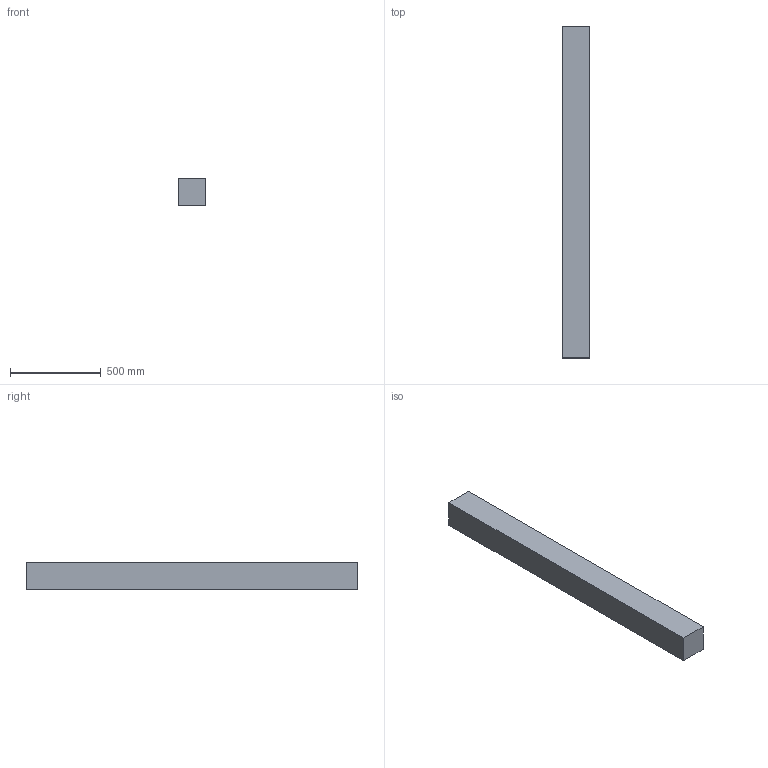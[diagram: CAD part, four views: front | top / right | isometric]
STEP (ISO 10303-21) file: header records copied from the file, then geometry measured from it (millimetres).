
FILE_DESCRIPTION(/* description */ (''),/* implementation_level */ '2;1');
FILE_NAME(/* name */ '6x6x72',/* time_stamp */ '2024-09-20T11:47:12-05:00',/* author */ (''),/* organization */ (''),/* preprocessor_version */ 'ST-DEVELOPER v19.2',/* originating_system */ 'Rhino 8.5',/* authorisation */ '');
FILE_SCHEMA (('CONFIG_CONTROL_DESIGN'));
Length unit declared in the file: inch
Products named in the file (1): Document
Bounding box: 152.4 x 1828.8 x 152.4 mm (x, y, z)
Volume: 42475269.9 mm3; surface area: 1161288 mm2
Topology: 1 solids, 1 shells, 6 faces, 12 edges, 8 vertices
Faces by surface type: plane 6
Entity records: 226 total; most frequent: CARTESIAN_POINT 40, ORIENTED_EDGE 24, EDGE_CURVE 12, B_SPLINE_CURVE_WITH_KNOTS 12, DIRECTION 10, VERTEX_POINT 8, AXIS2_PLACEMENT_3D 8, ORGANIZATION 7
